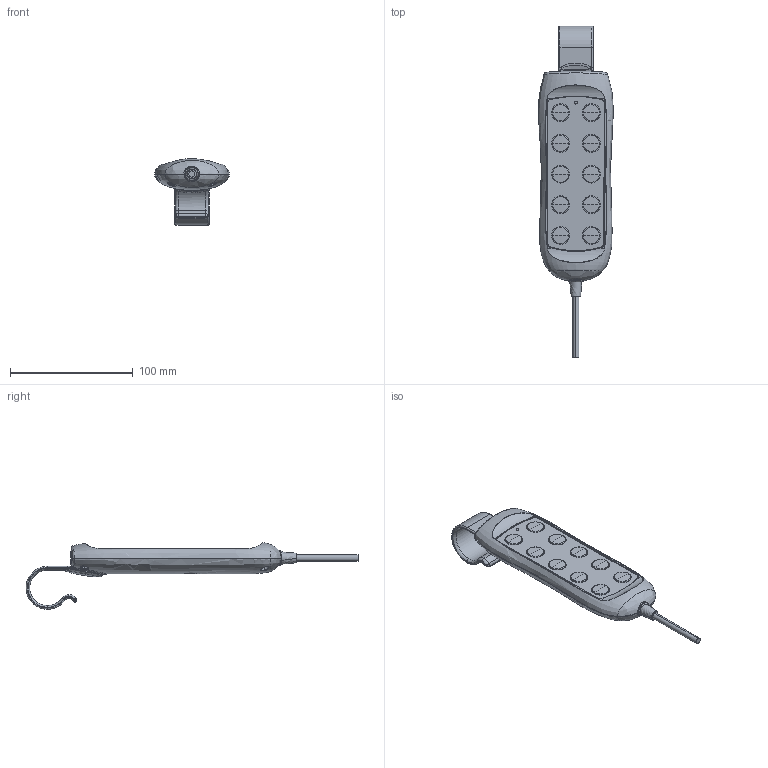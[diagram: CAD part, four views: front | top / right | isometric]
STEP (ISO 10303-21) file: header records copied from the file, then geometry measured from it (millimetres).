
FILE_DESCRIPTION (( 'STEP AP203' ), '1' );
FILE_NAME ('3D_TMH1.STEP', '2017-06-12T02:08:34', ( '' ), ( '' ), 'SwSTEP 2.0', 'SolidWorks 2015', '' );
FILE_SCHEMA (( 'CONFIG_CONTROL_DESIGN' ));
Length unit declared in the file: millimetre
Products named in the file (1): 3D_TMH1
Bounding box: 60.93 x 270.5 x 54.27 mm (x, y, z)
Volume: 178980.9 mm3; surface area: 62464.4 mm2
Topology: 11 solids, 11 shells, 596 faces, 1462 edges, 920 vertices
Faces by surface type: bspline 165, cylinder 120, plane 106, cone 81, torus 76, sphere 48
Entity records: 38755 total; most frequent: CARTESIAN_POINT 25681, ORIENTED_EDGE 2916, DIRECTION 2484, EDGE_CURVE 1458, AXIS2_PLACEMENT_3D 1087, VERTEX_POINT 918, CIRCLE 655, EDGE_LOOP 650
